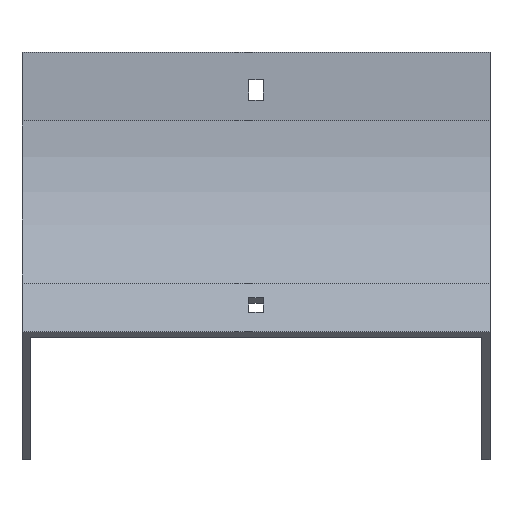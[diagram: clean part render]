
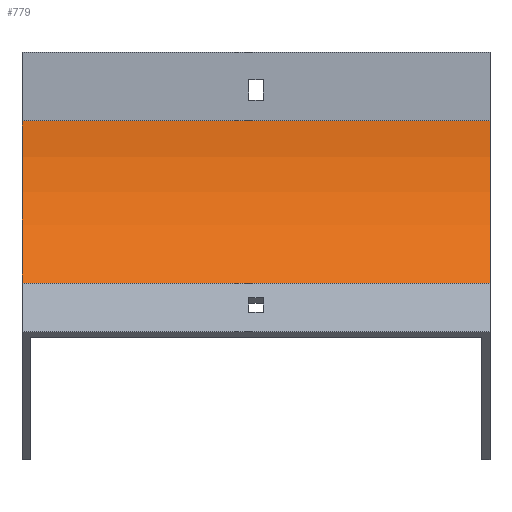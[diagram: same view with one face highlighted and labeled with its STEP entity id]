
A CAD part, front view. The second image highlights one B-rep face of the part: STEP entity #779.
In plain terms, the highlighted cylindrical face has radius 100 mm (diameter 200 mm), a partial arc.
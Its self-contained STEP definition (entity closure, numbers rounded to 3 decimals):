
#101 = AXIS2_PLACEMENT_3D ( 'NONE', #1763, #1894, #1162 ) ;
#223 = CIRCLE ( 'NONE', #821, 100. ) ;
#235 = CYLINDRICAL_SURFACE ( 'NONE', #101, 100. ) ;
#436 = LINE ( 'NONE', #1339, #1683 ) ;
#455 = DIRECTION ( 'NONE',  ( -1., 0., 0. ) ) ;
#468 = EDGE_CURVE ( 'NONE', #1810, #752, #436, .T. ) ;
#511 = DIRECTION ( 'NONE',  ( -1., 0., 0. ) ) ;
#527 = CARTESIAN_POINT ( 'NONE',  ( -102., -100., -30. ) ) ;
#556 = LINE ( 'NONE', #1625, #829 ) ;
#698 = ORIENTED_EDGE ( 'NONE', *, *, #468, .T. ) ;
#750 = DIRECTION ( 'NONE',  ( -1., 0., 0. ) ) ;
#752 = VERTEX_POINT ( 'NONE', #852 ) ;
#763 = ORIENTED_EDGE ( 'NONE', *, *, #997, .T. ) ;
#779 = ADVANCED_FACE ( 'NONE', ( #1297 ), #235, .F. ) ;
#821 = AXIS2_PLACEMENT_3D ( 'NONE', #527, #1398, #1541 ) ;
#829 = VECTOR ( 'NONE', #750, 1000. ) ;
#852 = CARTESIAN_POINT ( 'NONE',  ( -102., 0., -30. ) ) ;
#976 = CARTESIAN_POINT ( 'NONE',  ( 102., -100., -30. ) ) ;
#981 = EDGE_CURVE ( 'NONE', #1810, #1168, #1296, .T. ) ;
#997 = EDGE_CURVE ( 'NONE', #752, #1676, #223, .T. ) ;
#1001 = CARTESIAN_POINT ( 'NONE',  ( 102., -29.289, -100.711 ) ) ;
#1162 = DIRECTION ( 'NONE',  ( 0., 0., 1. ) ) ;
#1168 = VERTEX_POINT ( 'NONE', #1001 ) ;
#1296 = CIRCLE ( 'NONE', #1560, 100. ) ;
#1297 = FACE_OUTER_BOUND ( 'NONE', #1616, .T. ) ;
#1329 = ORIENTED_EDGE ( 'NONE', *, *, #981, .F. ) ;
#1339 = CARTESIAN_POINT ( 'NONE',  ( 102., 0., -30. ) ) ;
#1398 = DIRECTION ( 'NONE',  ( -1., 0., 0. ) ) ;
#1461 = ORIENTED_EDGE ( 'NONE', *, *, #1636, .F. ) ;
#1524 = CARTESIAN_POINT ( 'NONE',  ( 102., 0., -30. ) ) ;
#1541 = DIRECTION ( 'NONE',  ( 0., 0., 1. ) ) ;
#1560 = AXIS2_PLACEMENT_3D ( 'NONE', #976, #511, #1870 ) ;
#1616 = EDGE_LOOP ( 'NONE', ( #763, #1461, #1329, #698 ) ) ;
#1625 = CARTESIAN_POINT ( 'NONE',  ( 102., -29.289, -100.711 ) ) ;
#1636 = EDGE_CURVE ( 'NONE', #1168, #1676, #556, .T. ) ;
#1676 = VERTEX_POINT ( 'NONE', #1780 ) ;
#1683 = VECTOR ( 'NONE', #455, 1000. ) ;
#1763 = CARTESIAN_POINT ( 'NONE',  ( 102., -100., -30. ) ) ;
#1780 = CARTESIAN_POINT ( 'NONE',  ( -102., -29.289, -100.711 ) ) ;
#1810 = VERTEX_POINT ( 'NONE', #1524 ) ;
#1870 = DIRECTION ( 'NONE',  ( 0., 0., 1. ) ) ;
#1894 = DIRECTION ( 'NONE',  ( -1., 0., 0. ) ) ;
